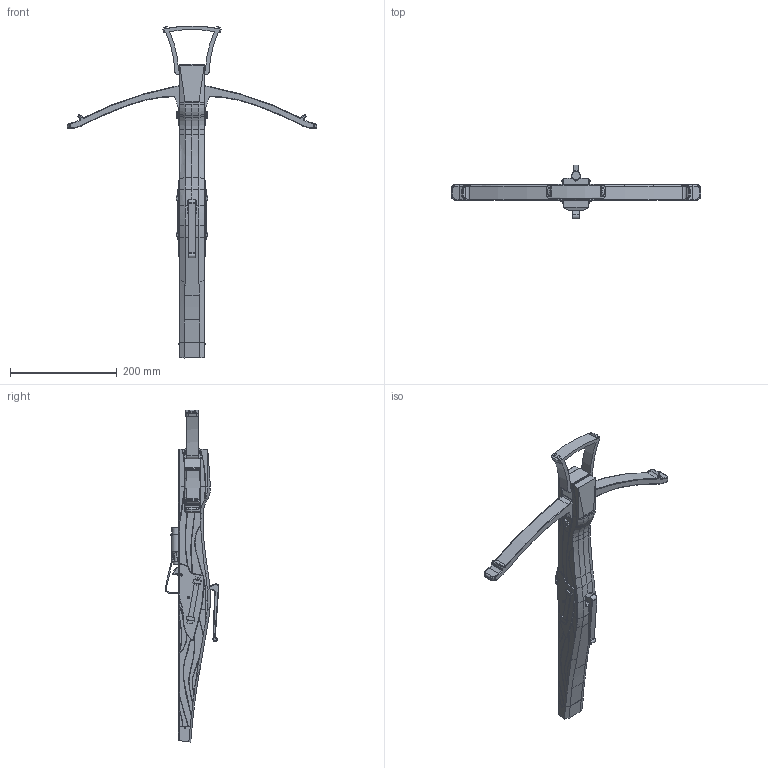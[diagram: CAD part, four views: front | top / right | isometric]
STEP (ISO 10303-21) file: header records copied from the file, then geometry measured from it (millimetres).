
FILE_DESCRIPTION(/* description */ (''),/* implementation_level */ '2;1');
FILE_NAME(/* name */ 'StringerCrossbow.step',/* time_stamp */ '2026-01-01T13:52:50-05:00',/* author */ (''),/* organization */ (''),/* preprocessor_version */ 'ST-DEVELOPER v20.1',/* originating_system */ 'Autodesk Translation Framework v14.21.0.0',/* authorisation */ '');
FILE_SCHEMA (('AUTOMOTIVE_DESIGN { 1 0 10303 214 3 1 1 }'));
Length unit declared in the file: millimetre
Products named in the file (1): crossedbow
Bounding box: 467.52 x 100.83 x 622.03 mm (x, y, z)
Volume: 1405373.5 mm3; surface area: 284357 mm2
Topology: 29 solids, 29 shells, 1376 faces, 3675 edges, 2350 vertices
Faces by surface type: plane 640, cylinder 315, bspline 273, cone 114, torus 34
Full cylindrical faces by diameter (mm): 3 x3, 4.5 x8, 4.8 x3, 16.3 x1
Entity records: 51453 total; most frequent: CARTESIAN_POINT 18869, ORIENTED_EDGE 7328, DIRECTION 5910, EDGE_CURVE 3664, VERTEX_POINT 2350, LINE 1974, VECTOR 1974, AXIS2_PLACEMENT_3D 1968
